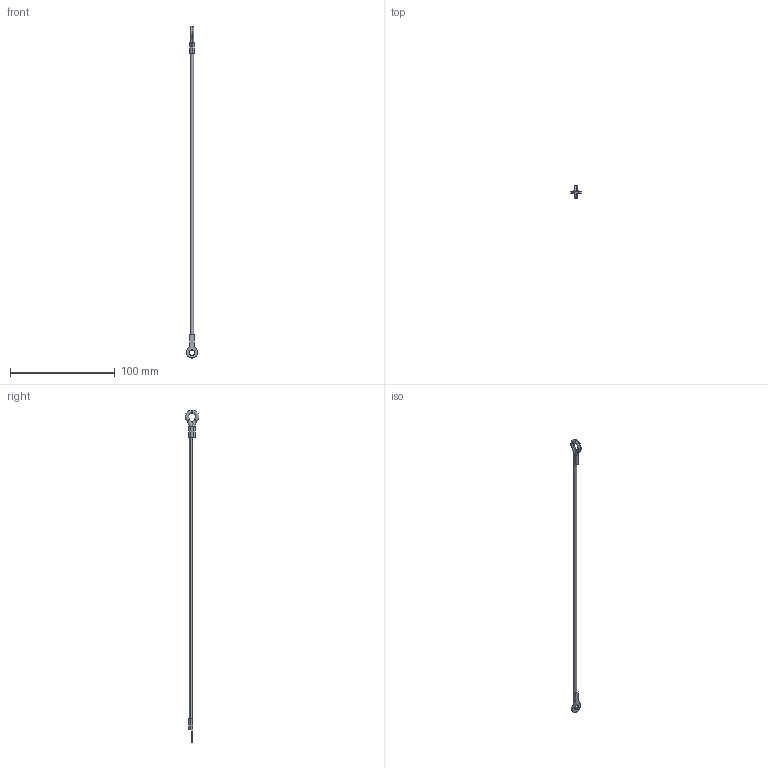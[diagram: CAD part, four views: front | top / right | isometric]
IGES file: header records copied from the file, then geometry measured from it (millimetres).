
Start section: SolidWorks IGES file using analytic representation for surfaces
Global section: file name: C:\Users\ianosborn\Desktop\LA1075_v2\LA1075_v2_20260320_IGES\LA1075.I06-304G1.igs; native system: SolidWorks 2019; preprocessor: SolidWorks 2019; author: IanOsborn; date: 260323.164612; units: millimetre
Bounding box: 10.41 x 12.75 x 316.39 mm (x, y, z)
Surface area: 3601.6 mm2 (no closed solid volume)
Topology: 0 solids, 0 shells, 30 faces, 460 edges, 460 vertices
Faces by surface type: bspline 20, revolution 10
